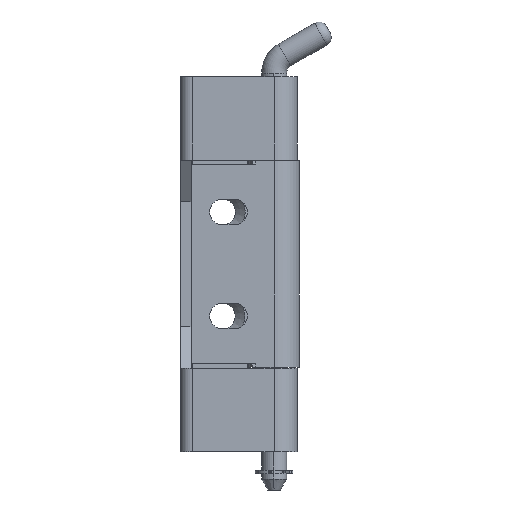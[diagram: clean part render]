
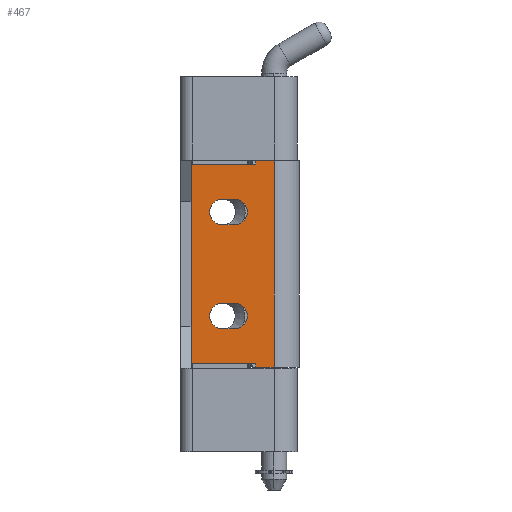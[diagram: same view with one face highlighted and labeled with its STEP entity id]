
A CAD part, left-side view. The second image highlights one B-rep face of the part: STEP entity #467.
In plain terms, the highlighted planar face has unit normal (-1, 0, 0) as drawn and (0, -1, 0) by its records, which use the part's own axes.
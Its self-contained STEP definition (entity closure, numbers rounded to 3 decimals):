
#458 = EDGE_CURVE ( 'NONE', #534, #1422, #5005, .T. ) ;
#460 = ORIENTED_EDGE ( 'NONE', *, *, #517, .T. ) ;
#461 = VERTEX_POINT ( 'NONE', #4998 ) ;
#462 = EDGE_CURVE ( 'NONE', #1226, #461, #4993, .T. ) ;
#463 = ORIENTED_EDGE ( 'NONE', *, *, #1584, .T. ) ;
#464 = EDGE_CURVE ( 'NONE', #474, #466, #4988, .T. ) ;
#465 = ORIENTED_EDGE ( 'NONE', *, *, #471, .T. ) ;
#466 = VERTEX_POINT ( 'NONE', #4977 ) ;
#467 = ADVANCED_FACE ( 'NONE', ( #4980, #4945, #4999 ), #4734, .F. ) ;
#468 = EDGE_LOOP ( 'NONE', ( #470, #473, #479, #465, #463 ) ) ;
#469 = ORIENTED_EDGE ( 'NONE', *, *, #462, .T. ) ;
#470 = ORIENTED_EDGE ( 'NONE', *, *, #477, .T. ) ;
#471 = EDGE_CURVE ( 'NONE', #466, #1585, #4470, .T. ) ;
#472 = VERTEX_POINT ( 'NONE', #4981 ) ;
#473 = ORIENTED_EDGE ( 'NONE', *, *, #476, .T. ) ;
#474 = VERTEX_POINT ( 'NONE', #4976 ) ;
#475 = EDGE_LOOP ( 'NONE', ( #469, #460, #503, #513, #516 ) ) ;
#476 = EDGE_CURVE ( 'NONE', #472, #474, #4753, .T. ) ;
#477 = EDGE_CURVE ( 'NONE', #1571, #472, #4719, .T. ) ;
#478 = EDGE_CURVE ( 'NONE', #646, #619, #5265, .T. ) ;
#479 = ORIENTED_EDGE ( 'NONE', *, *, #464, .T. ) ;
#491 = EDGE_CURVE ( 'NONE', #646, #536, #5254, .T. ) ;
#492 = EDGE_CURVE ( 'NONE', #511, #619, #5299, .T. ) ;
#493 = ORIENTED_EDGE ( 'NONE', *, *, #514, .F. ) ;
#494 = EDGE_CURVE ( 'NONE', #515, #538, #5300, .T. ) ;
#496 = ORIENTED_EDGE ( 'NONE', *, *, #491, .F. ) ;
#498 = ORIENTED_EDGE ( 'NONE', *, *, #506, .F. ) ;
#499 = EDGE_CURVE ( 'NONE', #538, #1227, #5295, .T. ) ;
#503 = ORIENTED_EDGE ( 'NONE', *, *, #494, .T. ) ;
#504 = ORIENTED_EDGE ( 'NONE', *, *, #492, .F. ) ;
#506 = EDGE_CURVE ( 'NONE', #536, #534, #5288, .T. ) ;
#510 = EDGE_LOOP ( 'NONE', ( #532, #498, #496, #512, #504, #493, #537, #519 ) ) ;
#511 = VERTEX_POINT ( 'NONE', #5289 ) ;
#512 = ORIENTED_EDGE ( 'NONE', *, *, #478, .T. ) ;
#513 = ORIENTED_EDGE ( 'NONE', *, *, #499, .T. ) ;
#514 = EDGE_CURVE ( 'NONE', #518, #511, #5275, .T. ) ;
#515 = VERTEX_POINT ( 'NONE', #5280 ) ;
#516 = ORIENTED_EDGE ( 'NONE', *, *, #1582, .T. ) ;
#517 = EDGE_CURVE ( 'NONE', #461, #515, #5276, .T. ) ;
#518 = VERTEX_POINT ( 'NONE', #5333 ) ;
#519 = ORIENTED_EDGE ( 'NONE', *, *, #1418, .F. ) ;
#526 = EDGE_CURVE ( 'NONE', #518, #1445, #5316, .T. ) ;
#532 = ORIENTED_EDGE ( 'NONE', *, *, #458, .F. ) ;
#534 = VERTEX_POINT ( 'NONE', #5359 ) ;
#536 = VERTEX_POINT ( 'NONE', #5353 ) ;
#537 = ORIENTED_EDGE ( 'NONE', *, *, #526, .T. ) ;
#538 = VERTEX_POINT ( 'NONE', #5363 ) ;
#619 = VERTEX_POINT ( 'NONE', #2221 ) ;
#646 = VERTEX_POINT ( 'NONE', #2289 ) ;
#1226 = VERTEX_POINT ( 'NONE', #2991 ) ;
#1227 = VERTEX_POINT ( 'NONE', #2987 ) ;
#1418 = EDGE_CURVE ( 'NONE', #1422, #1445, #3099, .T. ) ;
#1422 = VERTEX_POINT ( 'NONE', #3063 ) ;
#1445 = VERTEX_POINT ( 'NONE', #3170 ) ;
#1571 = VERTEX_POINT ( 'NONE', #3251 ) ;
#1582 = EDGE_CURVE ( 'NONE', #1227, #1226, #3294, .T. ) ;
#1584 = EDGE_CURVE ( 'NONE', #1585, #1571, #3280, .T. ) ;
#1585 = VERTEX_POINT ( 'NONE', #3331 ) ;
#2221 = CARTESIAN_POINT ( 'NONE',  ( 0.75, -6.05, 19.95 ) ) ;
#2289 = CARTESIAN_POINT ( 'NONE',  ( 48.75, -6.05, 19.95 ) ) ;
#2987 = CARTESIAN_POINT ( 'NONE',  ( 37.25, -6.05, 15.45 ) ) ;
#2991 = CARTESIAN_POINT ( 'NONE',  ( 40.35, -6.05, 12.35 ) ) ;
#3063 = CARTESIAN_POINT ( 'NONE',  ( 49.5, -6.05, 0. ) ) ;
#3096 = DIRECTION ( 'NONE',  ( -1., 0., 0. ) ) ;
#3097 = VECTOR ( 'NONE', #3096, 1000. ) ;
#3098 = CARTESIAN_POINT ( 'NONE',  ( 49.5, -6.05, 0. ) ) ;
#3099 = LINE ( 'NONE', #3098, #3097 ) ;
#3170 = CARTESIAN_POINT ( 'NONE',  ( 0., -6.05, 0. ) ) ;
#3251 = CARTESIAN_POINT ( 'NONE',  ( 15.35, -6.05, 12.35 ) ) ;
#3269 = DIRECTION ( 'NONE',  ( 0., 0., 1. ) ) ;
#3270 = DIRECTION ( 'NONE',  ( 0., 1., 0. ) ) ;
#3271 = AXIS2_PLACEMENT_3D ( 'NONE', #3286, #3277, #3274 ) ;
#3274 = DIRECTION ( 'NONE',  ( 0., 0., 1. ) ) ;
#3275 = CARTESIAN_POINT ( 'NONE',  ( 37.25, -6.05, 12.35 ) ) ;
#3277 = DIRECTION ( 'NONE',  ( 0., 1., 0. ) ) ;
#3278 = AXIS2_PLACEMENT_3D ( 'NONE', #3275, #3270, #3269 ) ;
#3280 = CIRCLE ( 'NONE', #3271, 3.1 ) ;
#3286 = CARTESIAN_POINT ( 'NONE',  ( 12.25, -6.05, 12.35 ) ) ;
#3294 = CIRCLE ( 'NONE', #3278, 3.1 ) ;
#3331 = CARTESIAN_POINT ( 'NONE',  ( 12.25, -6.05, 15.45 ) ) ;
#4447 = CARTESIAN_POINT ( 'NONE',  ( 49.5, -6.05, 0. ) ) ;
#4448 = DIRECTION ( 'NONE',  ( 0., 1., 0. ) ) ;
#4449 = DIRECTION ( 'NONE',  ( 0., 0., 1. ) ) ;
#4455 = DIRECTION ( 'NONE',  ( 0., 0., -1. ) ) ;
#4456 = VECTOR ( 'NONE', #4455, 1000. ) ;
#4466 = CARTESIAN_POINT ( 'NONE',  ( 15.35, -6.05, 9.55 ) ) ;
#4470 = CIRCLE ( 'NONE', #4484, 3.1 ) ;
#4474 = CARTESIAN_POINT ( 'NONE',  ( 12.25, -6.05, 12.35 ) ) ;
#4475 = DIRECTION ( 'NONE',  ( 0., 1., 0. ) ) ;
#4484 = AXIS2_PLACEMENT_3D ( 'NONE', #4474, #4475, #4486 ) ;
#4486 = DIRECTION ( 'NONE',  ( 0., 0., 1. ) ) ;
#4719 = LINE ( 'NONE', #4466, #4456 ) ;
#4720 = AXIS2_PLACEMENT_3D ( 'NONE', #4447, #4448, #4449 ) ;
#4734 = PLANE ( 'NONE',  #4720 ) ;
#4747 = DIRECTION ( 'NONE',  ( 0., 0., 1. ) ) ;
#4751 = DIRECTION ( 'NONE',  ( 0., 1., 0. ) ) ;
#4752 = AXIS2_PLACEMENT_3D ( 'NONE', #4758, #4751, #4747 ) ;
#4753 = CIRCLE ( 'NONE', #4752, 3.1 ) ;
#4758 = CARTESIAN_POINT ( 'NONE',  ( 12.25, -6.05, 9.55 ) ) ;
#4945 = FACE_BOUND ( 'NONE', #475, .T. ) ;
#4976 = CARTESIAN_POINT ( 'NONE',  ( 9.15, -6.05, 9.55 ) ) ;
#4977 = CARTESIAN_POINT ( 'NONE',  ( 9.15, -6.05, 12.35 ) ) ;
#4978 = DIRECTION ( 'NONE',  ( 0., 0., 1. ) ) ;
#4979 = VECTOR ( 'NONE', #4978, 1000. ) ;
#4980 = FACE_BOUND ( 'NONE', #468, .T. ) ;
#4981 = CARTESIAN_POINT ( 'NONE',  ( 15.35, -6.05, 9.55 ) ) ;
#4982 = DIRECTION ( 'NONE',  ( 0., 0., -1. ) ) ;
#4983 = VECTOR ( 'NONE', #4982, 1000. ) ;
#4987 = CARTESIAN_POINT ( 'NONE',  ( 9.15, -6.05, 12.35 ) ) ;
#4988 = LINE ( 'NONE', #4987, #4979 ) ;
#4989 = DIRECTION ( 'NONE',  ( 0., 0., -1. ) ) ;
#4990 = VECTOR ( 'NONE', #4989, 1000. ) ;
#4992 = CARTESIAN_POINT ( 'NONE',  ( 40.35, -6.05, 9.55 ) ) ;
#4993 = LINE ( 'NONE', #4992, #4983 ) ;
#4998 = CARTESIAN_POINT ( 'NONE',  ( 40.35, -6.05, 9.55 ) ) ;
#4999 = FACE_OUTER_BOUND ( 'NONE', #510, .T. ) ;
#5004 = CARTESIAN_POINT ( 'NONE',  ( 49.5, -6.05, 0. ) ) ;
#5005 = LINE ( 'NONE', #5004, #4990 ) ;
#5243 = DIRECTION ( 'NONE',  ( 0., 0., -1. ) ) ;
#5246 = CARTESIAN_POINT ( 'NONE',  ( 34.15, -6.05, 9.55 ) ) ;
#5254 = LINE ( 'NONE', #5268, #5258 ) ;
#5258 = VECTOR ( 'NONE', #5243, 1000. ) ;
#5262 = DIRECTION ( 'NONE',  ( -1., 0., 0. ) ) ;
#5263 = VECTOR ( 'NONE', #5262, 1000. ) ;
#5264 = CARTESIAN_POINT ( 'NONE',  ( 49.5, -6.05, 19.95 ) ) ;
#5265 = LINE ( 'NONE', #5264, #5263 ) ;
#5268 = CARTESIAN_POINT ( 'NONE',  ( 48.75, -6.05, 4.45 ) ) ;
#5271 = DIRECTION ( 'NONE',  ( 1., 0., 0. ) ) ;
#5272 = VECTOR ( 'NONE', #5271, 1000. ) ;
#5273 = CARTESIAN_POINT ( 'NONE',  ( -16.245, -6.05, 4.45 ) ) ;
#5275 = LINE ( 'NONE', #5273, #5272 ) ;
#5276 = CIRCLE ( 'NONE', #5290, 3.1 ) ;
#5277 = DIRECTION ( 'NONE',  ( 1., 0., 0. ) ) ;
#5278 = VECTOR ( 'NONE', #5277, 1000. ) ;
#5280 = CARTESIAN_POINT ( 'NONE',  ( 34.15, -6.05, 9.55 ) ) ;
#5281 = DIRECTION ( 'NONE',  ( 0., 0., 1. ) ) ;
#5282 = DIRECTION ( 'NONE',  ( 0., 1., 0. ) ) ;
#5283 = CARTESIAN_POINT ( 'NONE',  ( 37.25, -6.05, 12.35 ) ) ;
#5284 = AXIS2_PLACEMENT_3D ( 'NONE', #5283, #5282, #5281 ) ;
#5287 = CARTESIAN_POINT ( 'NONE',  ( 48.75, -6.05, 4.45 ) ) ;
#5288 = LINE ( 'NONE', #5287, #5278 ) ;
#5289 = CARTESIAN_POINT ( 'NONE',  ( 0.75, -6.05, 4.45 ) ) ;
#5290 = AXIS2_PLACEMENT_3D ( 'NONE', #5331, #5330, #5329 ) ;
#5293 = DIRECTION ( 'NONE',  ( 0., 0., 1. ) ) ;
#5294 = VECTOR ( 'NONE', #5293, 1000. ) ;
#5295 = CIRCLE ( 'NONE', #5284, 3.1 ) ;
#5296 = DIRECTION ( 'NONE',  ( 0., 0., 1. ) ) ;
#5297 = VECTOR ( 'NONE', #5296, 1000. ) ;
#5298 = CARTESIAN_POINT ( 'NONE',  ( 0.75, -6.05, 4.45 ) ) ;
#5299 = LINE ( 'NONE', #5298, #5297 ) ;
#5300 = LINE ( 'NONE', #5246, #5294 ) ;
#5310 = DIRECTION ( 'NONE',  ( 0., 0., -1. ) ) ;
#5311 = VECTOR ( 'NONE', #5310, 1000. ) ;
#5315 = CARTESIAN_POINT ( 'NONE',  ( 0., -6.05, 0. ) ) ;
#5316 = LINE ( 'NONE', #5315, #5311 ) ;
#5329 = DIRECTION ( 'NONE',  ( 0., 0., 1. ) ) ;
#5330 = DIRECTION ( 'NONE',  ( 0., 1., 0. ) ) ;
#5331 = CARTESIAN_POINT ( 'NONE',  ( 37.25, -6.05, 9.55 ) ) ;
#5333 = CARTESIAN_POINT ( 'NONE',  ( 0., -6.05, 4.45 ) ) ;
#5353 = CARTESIAN_POINT ( 'NONE',  ( 48.75, -6.05, 4.45 ) ) ;
#5359 = CARTESIAN_POINT ( 'NONE',  ( 49.5, -6.05, 4.45 ) ) ;
#5363 = CARTESIAN_POINT ( 'NONE',  ( 34.15, -6.05, 12.35 ) ) ;
